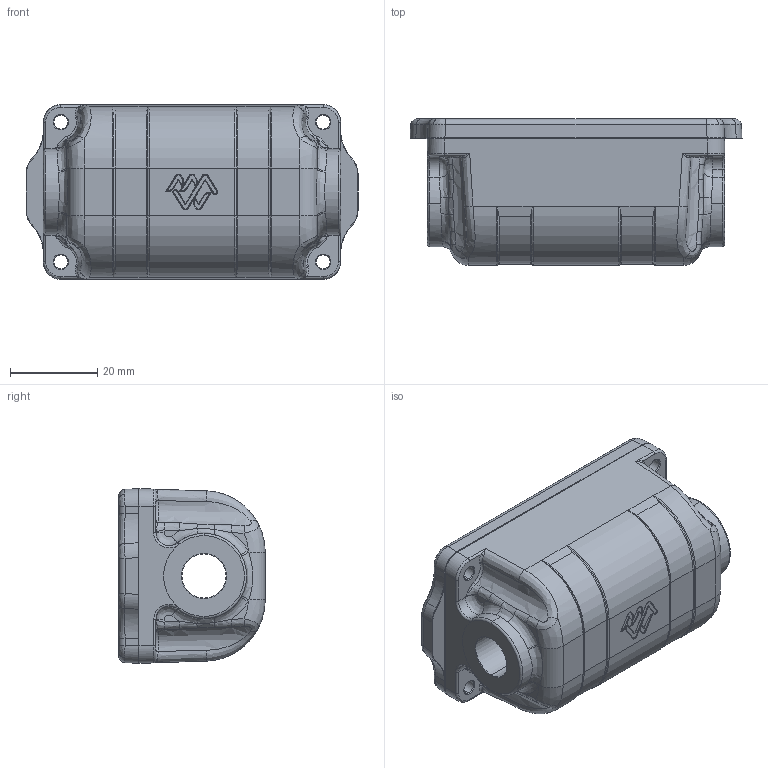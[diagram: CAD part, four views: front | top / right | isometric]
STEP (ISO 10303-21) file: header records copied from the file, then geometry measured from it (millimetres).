
FILE_DESCRIPTION (( 'STEP AP214' ), '1' );
FILE_NAME ('PUB-BR-101170.STEP', '2023-03-27T19:24:03', ( '' ), ( '' ), 'SwSTEP 2.0', 'SolidWorks 2022', '' );
FILE_SCHEMA (( 'AUTOMOTIVE_DESIGN' ));
Length unit declared in the file: millimetre
Products named in the file (4): WLP-CABLE-SPLICE-BODY_Molded; WLP-CABLE-SPLICE-LID_Molded; THREADED-INSERT-M3X0.5-6-R1; PUB-BR-101170
Assembly tree (4 placements, depth 2):
  PUB-BR-101170
    WLP-CABLE-SPLICE-BODY_Molded
    WLP-CABLE-SPLICE-LID_Molded
    THREADED-INSERT-M3X0.5-6-R1  x2
Bounding box: 75.99 x 33.5 x 40.02 mm (x, y, z)
Volume: 44499.1 mm3; surface area: 23096.6 mm2
Topology: 4 solids, 4 shells, 2166 faces, 5302 edges, 3202 vertices
Faces by surface type: plane 748, bspline 514, cylinder 453, cone 263, torus 149, sphere 39
Entity records: 84491 total; most frequent: CARTESIAN_POINT 39639, ORIENTED_EDGE 9570, DIRECTION 7575, EDGE_CURVE 4785, VERTEX_POINT 2900, AXIS2_PLACEMENT_3D 2718, LINE 2139, VECTOR 2139
